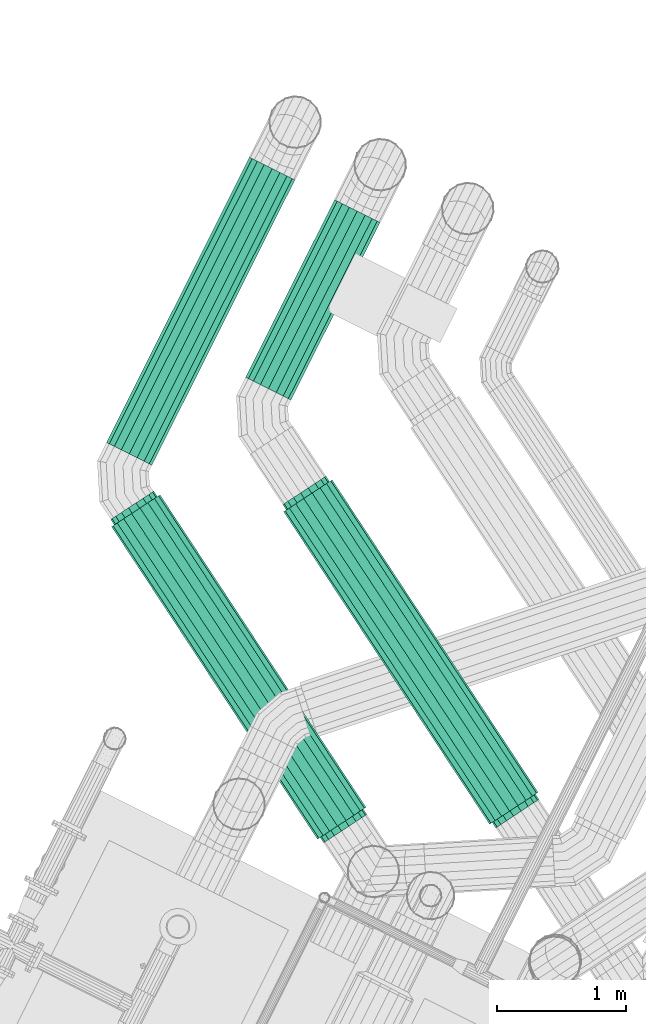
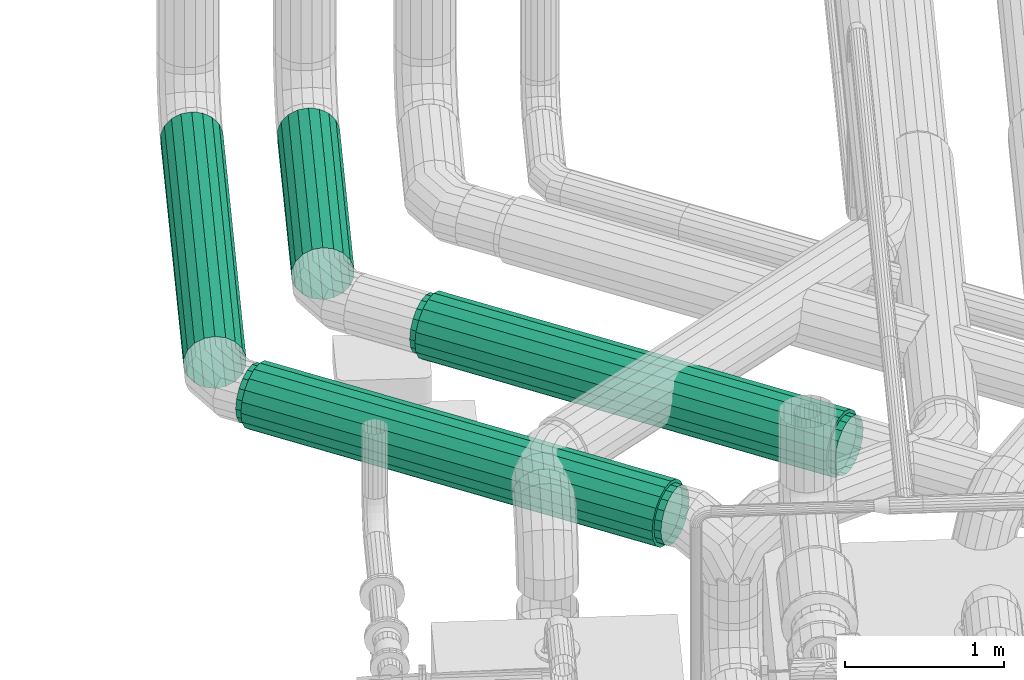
# One storey, part 18 of 206: 2 flow segments, 2 flow treatment devices.
"""IFC2X3 building model written with IfcOpenShell, lengths in metres."""

from ifc_helpers import new_model, si_unit, derived_unit, direction, frame, origin, place, context, subcontext, project, spatial, face_set, surface_model, source, transform, mapped, material, type_object, type_shapes, element, save


model = new_model("IFC2X3")

# Units and contexts
model_context = context("Model", 3, precision=5.2338327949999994e-05, world=origin(), true_north=direction((0.0, 1.0)))
body_context = subcontext(model_context, "Body", "Model", "MODEL_VIEW")
ifc_project = project(units=[si_unit("LENGTHUNIT", "METRE"), si_unit("AREAUNIT", "SQUARE_METRE"), si_unit("VOLUMEUNIT", "CUBIC_METRE"), si_unit("MASSUNIT", "GRAM", prefix="KILO"), si_unit("PLANEANGLEUNIT", "RADIAN"), derived_unit("THERMALTRANSMITTANCEUNIT", [(si_unit("MASSUNIT", "GRAM", prefix="KILO"), 1), (si_unit("THERMODYNAMICTEMPERATUREUNIT", "KELVIN"), -1), (si_unit("TIMEUNIT", "SECOND"), -3)])], contexts=[model_context])

# Site, building, storey
site_placement = place(None, frame((0.0, 0.0, 0.0), z_axis=(0.0, 0.0, 1.0), x_axis=(0.8939966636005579, -0.4480736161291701, 0.0)))
site = spatial("IfcSite", under=ifc_project, at=site_placement, Name="Default", CompositionType="ELEMENT")
building_placement = place(site_placement, origin())
building = spatial("IfcBuilding", under=site, at=building_placement, CompositionType="ELEMENT")
storey_placement = place(building_placement, origin())
storey = spatial("IfcBuildingStorey", under=building, at=storey_placement, Name="Erdgeschoss", CompositionType="ELEMENT", Elevation=0.0)

# Flow treatment device
ifc_material_1 = material(Name="IfcSurfaceStyle #280217")
distribution_element_type_1 = type_object("IfcDistributionElementType", Name="Telefonieschalldämpfer:Telefonieschalldämpfer", material=ifc_material_1)
shared_shape_1 = source(origin(), body_context, "Body", "SurfaceModel", [
    surface_model("IfcFaceBasedSurfaceModel", [(22.159098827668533, 8.455003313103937, 2.2000000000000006), (22.16512956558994, 8.465448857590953, 2.268404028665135), (22.121828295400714, 8.490448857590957, 2.268404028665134), (22.115797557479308, 8.480003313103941, 2.2), (22.18249438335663, 8.495525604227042, 2.328557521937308), (22.139193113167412, 8.520525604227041, 2.328557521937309), (22.20909882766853, 8.541605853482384, 2.3732050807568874), (22.165797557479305, 8.566605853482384, 2.373205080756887), (22.241734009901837, 8.598131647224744, 2.396961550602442), (22.19843273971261, 8.623131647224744, 2.396961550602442), (22.276463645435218, 8.65828514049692, 2.3969615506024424), (22.233162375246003, 8.683285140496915, 2.3969615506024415), (22.309098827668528, 8.714810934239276, 2.3732050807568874), (22.265797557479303, 8.739810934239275, 2.373205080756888), (22.33570327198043, 8.76089118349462, 2.3285575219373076), (22.292402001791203, 8.785891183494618, 2.3285575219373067), (22.35306808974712, 8.790967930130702, 2.2684040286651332), (22.309766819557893, 8.815967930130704, 2.2684040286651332), (22.359098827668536, 8.80141347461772, 2.2000000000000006), (22.31579755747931, 8.826413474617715, 2.200000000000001), (22.35306808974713, 8.790967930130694, 2.1315959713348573), (22.309766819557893, 8.815967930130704, 2.131595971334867), (22.33570327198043, 8.760891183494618, 2.071442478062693), (22.292402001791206, 8.785891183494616, 2.0714424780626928), (22.309098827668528, 8.714810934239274, 2.026794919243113), (22.265797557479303, 8.739810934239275, 2.0267949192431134), (22.27646364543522, 8.658285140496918, 2.003038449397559), (22.233162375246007, 8.683285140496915, 2.003038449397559), (22.241734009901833, 8.598131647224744, 2.0030384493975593), (22.19843273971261, 8.623131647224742, 2.0030384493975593), (22.20909882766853, 8.541605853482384, 2.026794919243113), (22.165797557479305, 8.566605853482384, 2.0267949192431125), (22.18249438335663, 8.495525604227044, 2.071442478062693), (22.139193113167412, 8.520525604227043, 2.071442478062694), (22.16512956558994, 8.465448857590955, 2.1315959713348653), (22.12182829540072, 8.490448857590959, 2.1315959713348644), (22.10329755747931, 8.458352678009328, 2.2000000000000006), (22.110082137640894, 8.470103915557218, 2.276954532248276), (19.598608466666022, 9.920103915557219, 2.276954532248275), (19.591823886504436, 9.90835267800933, 2.2000000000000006), (22.129617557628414, 8.503940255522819, 2.3446272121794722), (19.61814388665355, 9.953940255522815, 2.3446272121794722), (22.159547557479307, 8.555780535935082, 2.3948557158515), (19.648073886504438, 10.005780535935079, 2.3948557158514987), (22.196262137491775, 8.619372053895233, 2.421581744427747), (19.684788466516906, 10.069372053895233, 2.421581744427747), (22.235332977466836, 8.687044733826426, 2.4215817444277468), (19.723859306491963, 10.137044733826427, 2.4215817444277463), (22.272047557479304, 8.75063625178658, 2.3948557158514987), (19.760573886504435, 10.200636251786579, 2.394855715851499), (22.301977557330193, 8.80247653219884, 2.344627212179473), (19.790503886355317, 10.25247653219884, 2.3446272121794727), (22.321512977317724, 8.83631287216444, 2.276954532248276), (19.81003930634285, 10.286312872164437, 2.2769545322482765), (22.328297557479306, 8.848064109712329, 2.2), (19.816823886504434, 10.298064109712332, 2.1999999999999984), (22.32151297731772, 8.836312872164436, 2.1230454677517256), (19.81003930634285, 10.286312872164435, 2.123045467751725), (22.301977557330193, 8.802476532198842, 2.055372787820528), (19.79050388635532, 10.252476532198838, 2.055372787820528), (22.272047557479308, 8.75063625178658, 2.0051442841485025), (19.76057388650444, 10.200636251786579, 2.0051442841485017), (22.235332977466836, 8.687044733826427, 1.9784182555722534), (19.723859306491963, 10.137044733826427, 1.9784182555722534), (22.19626213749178, 8.619372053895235, 1.9784182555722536), (19.68478846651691, 10.069372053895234, 1.9784182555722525), (22.15954755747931, 8.555780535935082, 2.005144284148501), (19.648073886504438, 10.005780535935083, 2.0051442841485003), (22.129617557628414, 8.503940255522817, 2.055372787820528), (19.61814388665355, 9.953940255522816, 2.0553727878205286), (22.110082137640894, 8.47010391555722, 2.123045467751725), (19.598608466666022, 9.920103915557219, 2.123045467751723), (22.215797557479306, 8.65320839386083, 2.2), (19.704323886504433, 10.103208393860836, 2.1999999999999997), (19.604323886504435, 9.930003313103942, 2.2), (19.61035462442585, 9.940448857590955, 2.2684040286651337), (19.567053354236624, 9.965448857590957, 2.2684040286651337), (19.56102261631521, 9.955003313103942, 2.1999999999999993), (19.62771944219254, 9.970525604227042, 2.3285575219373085), (19.584418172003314, 9.99552560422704, 2.328557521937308), (19.654323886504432, 10.016605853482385, 2.3732050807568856), (19.611022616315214, 10.04160585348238, 2.373205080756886), (19.686959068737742, 10.073131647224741, 2.3969615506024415), (19.643657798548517, 10.098131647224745, 2.396961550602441), (19.72168870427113, 10.133285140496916, 2.3969615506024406), (19.678387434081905, 10.158285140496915, 2.396961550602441), (19.754323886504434, 10.189810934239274, 2.373205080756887), (19.711022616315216, 10.214810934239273, 2.3732050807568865), (19.780928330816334, 10.23589118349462, 2.3285575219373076), (19.737627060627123, 10.260891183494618, 2.3285575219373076), (19.798293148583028, 10.265967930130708, 2.2684040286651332), (19.754991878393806, 10.290967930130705, 2.2684040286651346), (19.804323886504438, 10.27641347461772, 2.2), (19.761022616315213, 10.301413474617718, 2.2000000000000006), (19.798293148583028, 10.265967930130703, 2.1315959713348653), (19.754991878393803, 10.2909679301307, 2.131595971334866), (19.780928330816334, 10.235891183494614, 2.0714424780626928), (19.73762706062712, 10.260891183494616, 2.0714424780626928), (19.754323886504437, 10.189810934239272, 2.026794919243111), (19.711022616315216, 10.214810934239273, 2.0267949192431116), (19.721688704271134, 10.133285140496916, 2.0030384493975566), (19.678387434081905, 10.158285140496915, 2.003038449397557), (19.686959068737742, 10.073131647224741, 2.003038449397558), (19.643657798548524, 10.098131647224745, 2.003038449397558), (19.654323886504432, 10.016605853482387, 2.026794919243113), (19.611022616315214, 10.041605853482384, 2.026794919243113), (19.62771944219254, 9.97052560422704, 2.071442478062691), (19.584418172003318, 9.99552560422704, 2.071442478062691), (19.61035462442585, 9.940448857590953, 2.1315959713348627), (19.567053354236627, 9.965448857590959, 2.1315959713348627)], [face_set([[[0, 1, 2, 3]], [[1, 4, 5, 2]], [[4, 6, 7, 5]], [[6, 8, 9, 7]], [[8, 10, 11, 9]], [[10, 12, 13, 11]], [[12, 14, 15, 13]], [[14, 16, 17, 15]], [[16, 18, 19, 17]], [[18, 20, 21, 19]], [[20, 22, 23, 21]], [[22, 24, 25, 23]], [[24, 26, 27, 25]], [[26, 28, 29, 27]], [[28, 30, 31, 29]], [[30, 32, 33, 31]], [[32, 34, 35, 33]], [[34, 0, 3, 35]], [[36, 37, 38, 39]], [[37, 40, 41, 38]], [[40, 42, 43, 41]], [[42, 44, 45, 43]], [[44, 46, 47, 45]], [[46, 48, 49, 47]], [[48, 50, 51, 49]], [[50, 52, 53, 51]], [[52, 54, 55, 53]], [[54, 56, 57, 55]], [[56, 58, 59, 57]], [[58, 60, 61, 59]], [[60, 62, 63, 61]], [[62, 64, 65, 63]], [[64, 66, 67, 65]], [[66, 68, 69, 67]], [[68, 70, 71, 69]], [[70, 36, 39, 71]], [[72, 37, 36]], [[72, 40, 37]], [[72, 42, 40]], [[72, 44, 42]], [[72, 46, 44]], [[72, 48, 46]], [[72, 50, 48]], [[72, 52, 50]], [[72, 54, 52]], [[72, 56, 54]], [[72, 58, 56]], [[72, 60, 58]], [[72, 62, 60]], [[72, 64, 62]], [[72, 66, 64]], [[72, 68, 66]], [[72, 70, 68]], [[72, 36, 70]], [[73, 71, 39]], [[73, 69, 71]], [[73, 67, 69]], [[73, 65, 67]], [[73, 63, 65]], [[73, 61, 63]], [[73, 59, 61]], [[73, 57, 59]], [[73, 55, 57]], [[73, 53, 55]], [[73, 51, 53]], [[73, 49, 51]], [[73, 47, 49]], [[73, 45, 47]], [[73, 43, 45]], [[73, 41, 43]], [[73, 38, 41]], [[73, 39, 38]], [[74, 75, 76, 77]], [[75, 78, 79, 76]], [[78, 80, 81, 79]], [[80, 82, 83, 81]], [[82, 84, 85, 83]], [[84, 86, 87, 85]], [[86, 88, 89, 87]], [[88, 90, 91, 89]], [[90, 92, 93, 91]], [[92, 94, 95, 93]], [[94, 96, 97, 95]], [[96, 98, 99, 97]], [[98, 100, 101, 99]], [[100, 102, 103, 101]], [[102, 104, 105, 103]], [[104, 106, 107, 105]], [[106, 108, 109, 107]], [[108, 74, 77, 109]]])]),
])
type_shapes(distribution_element_type_1, [shared_shape_1])
flow_treatment_device_1_placement = place(storey_placement, origin())
element("IfcFlowTreatmentDevice", 1, at=flow_treatment_device_1_placement, inside=storey, type_object=distribution_element_type_1, material=ifc_material_1, Name="Telefonieschalldämpfer", ObjectType="Telefonieschalldämpfer", context=body_context, shape_type="MappedRepresentation", body=[
    mapped(shared_shape_1, transform((0.0, 0.0, 0.0), scale=1.0)),
])

# Flow segment
ifc_material_2 = material(Name="IfcSurfaceStyle #251447")
distribution_element_type_2 = type_object("IfcDistributionElementType", Name="Wickelfalzrohr 280417:Wickelfalzrohr 280417", material=ifc_material_2)
shared_shape_2 = source(origin(), body_context, "Body", "SurfaceModel", [
    surface_model("IfcFaceBasedSurfaceModel", [(19.461022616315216, 10.474618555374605, 2.0), (19.392618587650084, 10.474618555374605, 2.0120614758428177), (19.392618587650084, 12.947668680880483, 2.012061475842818), (19.46102261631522, 12.947668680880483, 2.0), (19.332465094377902, 10.474618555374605, 2.046791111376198), (19.332465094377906, 12.947668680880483, 2.046791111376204), (19.28781753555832, 10.474618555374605, 2.0999999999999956), (19.28781753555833, 12.947668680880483, 2.1), (19.26406106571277, 10.474618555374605, 2.165270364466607), (19.264061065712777, 12.947668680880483, 2.165270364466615), (19.264061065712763, 10.474618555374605, 2.2347296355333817), (19.264061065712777, 12.947668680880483, 2.2347296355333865), (19.287817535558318, 10.474618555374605, 2.2999999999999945), (19.28781753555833, 12.947668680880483, 2.3000000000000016), (19.332465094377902, 10.474618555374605, 2.3532088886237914), (19.332465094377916, 12.947668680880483, 2.3532088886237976), (19.392618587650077, 10.474618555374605, 2.3879385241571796), (19.39261858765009, 12.947668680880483, 2.387938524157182), (19.46102261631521, 10.474618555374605, 2.400000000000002), (19.46102261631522, 12.947668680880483, 2.4), (19.52942664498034, 10.474618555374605, 2.3879385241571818), (19.529426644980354, 12.947668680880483, 2.3879385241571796), (19.58958013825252, 10.474618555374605, 2.353208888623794), (19.589580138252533, 12.947668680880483, 2.3532088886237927), (19.63422769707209, 10.474618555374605, 2.2999999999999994), (19.63422769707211, 12.947668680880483, 2.2999999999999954), (19.65798416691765, 10.474618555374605, 2.2347296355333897), (19.657984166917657, 12.947668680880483, 2.234729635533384), (19.657984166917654, 10.474618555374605, 2.1652703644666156), (19.657984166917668, 12.947668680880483, 2.1652703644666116), (19.6342276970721, 10.474618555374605, 2.100000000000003), (19.634227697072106, 12.947668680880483, 2.099999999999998), (19.589580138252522, 10.474618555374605, 2.046791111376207), (19.589580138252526, 12.947668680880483, 2.0467911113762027), (19.529426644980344, 10.474618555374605, 2.0120614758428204), (19.529426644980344, 12.947668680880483, 2.0120614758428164)], [face_set([[[0, 1, 2, 3]], [[1, 4, 5, 2]], [[4, 6, 7, 5]], [[6, 8, 9, 7]], [[8, 10, 11, 9]], [[10, 12, 13, 11]], [[12, 14, 15, 13]], [[14, 16, 17, 15]], [[16, 18, 19, 17]], [[18, 20, 21, 19]], [[20, 22, 23, 21]], [[22, 24, 25, 23]], [[24, 26, 27, 25]], [[26, 28, 29, 27]], [[28, 30, 31, 29]], [[30, 32, 33, 31]], [[32, 34, 35, 33]], [[34, 0, 3, 35]]])]),
])
type_shapes(distribution_element_type_2, [shared_shape_2])
flow_segment_1_placement = place(storey_placement, origin())
element("IfcFlowSegment", 2, at=flow_segment_1_placement, inside=storey, type_object=distribution_element_type_2, material=ifc_material_2, Name="Wickelfalzrohr", ObjectType="Wickelfalzrohr", context=body_context, shape_type="MappedRepresentation", body=[
    mapped(shared_shape_2, transform((0.0, 0.0, 0.0), scale=1.0)),
])

# Flow treatment device
distribution_element_type_3 = type_object("IfcDistributionElementType", Name="Telefonieschalldämpfer 280796:Telefonieschalldämpfer 280796", material=ifc_material_1)
shared_shape_3 = source(origin(), body_context, "Body", "SurfaceModel", [
    surface_model("IfcFaceBasedSurfaceModel", [(23.2994767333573, 9.156265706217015, 2.1999999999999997), (23.305507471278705, 9.166711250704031, 2.2684040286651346), (23.26220620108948, 9.191711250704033, 2.2684040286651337), (23.256175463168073, 9.181265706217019, 2.1999999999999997), (23.322872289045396, 9.196787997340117, 2.3285575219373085), (23.279571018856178, 9.221787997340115, 2.328557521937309), (23.349476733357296, 9.242868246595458, 2.373205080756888), (23.30617546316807, 9.26786824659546, 2.373205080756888), (23.382111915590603, 9.299394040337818, 2.3969615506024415), (23.338810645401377, 9.324394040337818, 2.3969615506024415), (23.416841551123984, 9.359547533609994, 2.3969615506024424), (23.37354028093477, 9.384547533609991, 2.3969615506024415), (23.449476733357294, 9.41607332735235, 2.3732050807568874), (23.40617546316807, 9.441073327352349, 2.373205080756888), (23.476081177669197, 9.462153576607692, 2.3285575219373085), (23.432779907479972, 9.48715357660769, 2.328557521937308), (23.493445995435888, 9.492230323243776, 2.2684040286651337), (23.45014472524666, 9.517230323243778, 2.2684040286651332), (23.499476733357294, 9.502675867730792, 2.2), (23.456175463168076, 9.52767586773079, 2.200000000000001), (23.49344599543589, 9.49223032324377, 2.131595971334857), (23.45014472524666, 9.51723032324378, 2.1315959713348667), (23.476081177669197, 9.462153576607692, 2.0714424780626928), (23.432779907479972, 9.48715357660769, 2.0714424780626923), (23.449476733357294, 9.416073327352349, 2.026794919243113), (23.40617546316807, 9.441073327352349, 2.0267949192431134), (23.416841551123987, 9.359547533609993, 2.0030384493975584), (23.373540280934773, 9.38454753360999, 2.0030384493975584), (23.382111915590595, 9.299394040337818, 2.0030384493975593), (23.338810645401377, 9.324394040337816, 2.0030384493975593), (23.349476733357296, 9.242868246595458, 2.026794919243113), (23.30617546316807, 9.26786824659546, 2.026794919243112), (23.322872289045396, 9.196787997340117, 2.0714424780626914), (23.279571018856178, 9.221787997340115, 2.071442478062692), (23.305507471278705, 9.166711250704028, 2.1315959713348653), (23.262206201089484, 9.191711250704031, 2.1315959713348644), (23.24367546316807, 9.159615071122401, 2.2000000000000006), (23.25046004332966, 9.17136630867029, 2.276954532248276), (20.738986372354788, 10.621366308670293, 2.276954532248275), (20.732201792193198, 10.609615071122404, 2.2000000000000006), (23.26999546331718, 9.205202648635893, 2.344627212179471), (20.75852179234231, 10.655202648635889, 2.34462721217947), (23.299925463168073, 9.257042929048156, 2.3948557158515), (20.788451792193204, 10.707042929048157, 2.3948557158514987), (23.336640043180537, 9.320634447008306, 2.421581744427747), (20.825166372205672, 10.770634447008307, 2.421581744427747), (23.3757108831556, 9.3883071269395, 2.421581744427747), (20.86423721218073, 10.838307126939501, 2.4215817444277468), (23.41242546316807, 9.451898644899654, 2.3948557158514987), (20.9009517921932, 10.901898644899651, 2.394855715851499), (23.44235546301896, 9.503738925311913, 2.3446272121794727), (20.930881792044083, 10.953738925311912, 2.344627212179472), (23.461890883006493, 9.53757526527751, 2.2769545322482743), (20.95041721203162, 10.98757526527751, 2.2769545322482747), (23.468675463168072, 9.549326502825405, 2.2), (20.9572017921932, 10.999326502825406, 2.1999999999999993), (23.46189088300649, 9.537575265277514, 2.1230454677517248), (20.95041721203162, 10.987575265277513, 2.1230454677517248), (23.44235546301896, 9.503738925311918, 2.0553727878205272), (20.930881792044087, 10.953738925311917, 2.055372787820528), (23.412425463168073, 9.451898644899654, 2.0051442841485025), (20.900951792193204, 10.90189864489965, 2.0051442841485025), (23.3757108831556, 9.388307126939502, 1.9784182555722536), (20.86423721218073, 10.838307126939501, 1.9784182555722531), (23.336640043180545, 9.320634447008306, 1.9784182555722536), (20.825166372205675, 10.770634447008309, 1.9784182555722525), (23.299925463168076, 9.257042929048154, 2.005144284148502), (20.788451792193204, 10.707042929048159, 2.005144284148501), (23.26999546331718, 9.205202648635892, 2.0553727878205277), (20.75852179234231, 10.655202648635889, 2.055372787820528), (23.25046004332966, 9.171366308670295, 2.123045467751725), (20.738986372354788, 10.621366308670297, 2.1230454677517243), (23.35617546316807, 9.354470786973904, 2.2), (20.8447017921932, 10.804470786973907, 2.1999999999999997), (20.744701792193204, 10.631265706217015, 2.1999999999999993), (20.750732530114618, 10.641711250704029, 2.268404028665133), (20.70743125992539, 10.666711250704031, 2.2684040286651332), (20.701400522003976, 10.656265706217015, 2.1999999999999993), (20.768097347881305, 10.671787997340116, 2.3285575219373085), (20.72479607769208, 10.696787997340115, 2.328557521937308), (20.794701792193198, 10.71786824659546, 2.3732050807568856), (20.75140052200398, 10.742868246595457, 2.373205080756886), (20.827336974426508, 10.774394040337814, 2.396961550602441), (20.784035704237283, 10.79939404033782, 2.3969615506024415), (20.862066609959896, 10.834547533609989, 2.3969615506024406), (20.81876533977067, 10.85954753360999, 2.396961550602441), (20.894701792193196, 10.891073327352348, 2.3732050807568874), (20.85140052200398, 10.916073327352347, 2.3732050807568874), (20.9213062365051, 10.937153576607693, 2.3285575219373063), (20.87800496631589, 10.962153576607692, 2.3285575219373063), (20.93867105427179, 10.96723032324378, 2.2684040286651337), (20.895369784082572, 10.99223032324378, 2.2684040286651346), (20.944701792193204, 10.977675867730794, 2.1999999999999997), (20.901400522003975, 11.00267586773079, 2.1999999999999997), (20.93867105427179, 10.967230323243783, 2.1315959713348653), (20.895369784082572, 10.99223032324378, 2.131595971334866), (20.921306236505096, 10.937153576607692, 2.0714424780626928), (20.878004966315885, 10.962153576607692, 2.0714424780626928), (20.894701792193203, 10.891073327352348, 2.0267949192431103), (20.85140052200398, 10.916073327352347, 2.0267949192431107), (20.8620666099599, 10.834547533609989, 2.003038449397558), (20.818765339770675, 10.85954753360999, 2.003038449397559), (20.827336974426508, 10.774394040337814, 2.003038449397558), (20.78403570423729, 10.79939404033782, 2.003038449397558), (20.794701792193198, 10.71786824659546, 2.026794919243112), (20.75140052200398, 10.742868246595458, 2.0267949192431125), (20.768097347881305, 10.671787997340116, 2.071442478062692), (20.724796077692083, 10.696787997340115, 2.071442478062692), (20.750732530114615, 10.641711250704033, 2.1315959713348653), (20.707431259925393, 10.666711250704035, 2.1315959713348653)], [face_set([[[0, 1, 2, 3]], [[1, 4, 5, 2]], [[4, 6, 7, 5]], [[6, 8, 9, 7]], [[8, 10, 11, 9]], [[10, 12, 13, 11]], [[12, 14, 15, 13]], [[14, 16, 17, 15]], [[16, 18, 19, 17]], [[18, 20, 21, 19]], [[20, 22, 23, 21]], [[22, 24, 25, 23]], [[24, 26, 27, 25]], [[26, 28, 29, 27]], [[28, 30, 31, 29]], [[30, 32, 33, 31]], [[32, 34, 35, 33]], [[34, 0, 3, 35]], [[36, 37, 38, 39]], [[37, 40, 41, 38]], [[40, 42, 43, 41]], [[42, 44, 45, 43]], [[44, 46, 47, 45]], [[46, 48, 49, 47]], [[48, 50, 51, 49]], [[50, 52, 53, 51]], [[52, 54, 55, 53]], [[54, 56, 57, 55]], [[56, 58, 59, 57]], [[58, 60, 61, 59]], [[60, 62, 63, 61]], [[62, 64, 65, 63]], [[64, 66, 67, 65]], [[66, 68, 69, 67]], [[68, 70, 71, 69]], [[70, 36, 39, 71]], [[72, 37, 36]], [[72, 40, 37]], [[72, 42, 40]], [[72, 44, 42]], [[72, 46, 44]], [[72, 48, 46]], [[72, 50, 48]], [[72, 52, 50]], [[72, 54, 52]], [[72, 56, 54]], [[72, 58, 56]], [[72, 60, 58]], [[72, 62, 60]], [[72, 64, 62]], [[72, 66, 64]], [[72, 68, 66]], [[72, 70, 68]], [[72, 36, 70]], [[73, 71, 39]], [[73, 69, 71]], [[73, 67, 69]], [[73, 65, 67]], [[73, 63, 65]], [[73, 61, 63]], [[73, 59, 61]], [[73, 57, 59]], [[73, 55, 57]], [[73, 53, 55]], [[73, 51, 53]], [[73, 49, 51]], [[73, 47, 49]], [[73, 45, 47]], [[73, 43, 45]], [[73, 41, 43]], [[73, 38, 41]], [[73, 39, 38]], [[74, 75, 76, 77]], [[75, 78, 79, 76]], [[78, 80, 81, 79]], [[80, 82, 83, 81]], [[82, 84, 85, 83]], [[84, 86, 87, 85]], [[86, 88, 89, 87]], [[88, 90, 91, 89]], [[90, 92, 93, 91]], [[92, 94, 95, 93]], [[94, 96, 97, 95]], [[96, 98, 99, 97]], [[98, 100, 101, 99]], [[100, 102, 103, 101]], [[102, 104, 105, 103]], [[104, 106, 107, 105]], [[106, 108, 109, 107]], [[108, 74, 77, 109]]])]),
])
type_shapes(distribution_element_type_3, [shared_shape_3])
flow_treatment_device_2_placement = place(storey_placement, origin())
element("IfcFlowTreatmentDevice", 3, at=flow_treatment_device_2_placement, inside=storey, type_object=distribution_element_type_3, material=ifc_material_1, Name="Telefonieschalldämpfer", ObjectType="Telefonieschalldämpfer", context=body_context, shape_type="MappedRepresentation", body=[
    mapped(shared_shape_3, transform((0.0, 0.0, 0.0), scale=1.0)),
])

# Flow segment
distribution_element_type_4 = type_object("IfcDistributionElementType", Name="Wickelfalzrohr 281175:Wickelfalzrohr 281175", material=ifc_material_2)
shared_shape_4 = source(origin(), body_context, "Body", "SurfaceModel", [
    surface_model("IfcFaceBasedSurfaceModel", [(20.19823419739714, 11.408649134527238, 2.0), (20.12983016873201, 11.408649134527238, 2.012061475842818), (20.12983016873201, 12.947668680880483, 2.0120614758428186), (20.198234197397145, 12.947668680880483, 2.0), (20.06967667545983, 11.408649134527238, 2.0467911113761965), (20.06967667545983, 12.947668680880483, 2.046791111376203), (20.025029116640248, 11.408649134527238, 2.0999999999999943), (20.025029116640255, 12.947668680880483, 2.099999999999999), (20.001272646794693, 11.408649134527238, 2.165270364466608), (20.001272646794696, 12.947668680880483, 2.165270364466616), (20.001272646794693, 11.408649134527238, 2.2347296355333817), (20.001272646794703, 12.947668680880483, 2.234729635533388), (20.025029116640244, 11.408649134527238, 2.2999999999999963), (20.025029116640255, 12.947668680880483, 2.3000000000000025), (20.06967667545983, 11.408649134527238, 2.35320888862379), (20.06967667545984, 12.947668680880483, 2.3532088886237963), (20.129830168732, 11.408649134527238, 2.3879385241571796), (20.129830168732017, 12.947668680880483, 2.387938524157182), (20.19823419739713, 11.408649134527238, 2.4000000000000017), (20.198234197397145, 12.947668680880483, 2.3999999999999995), (20.266638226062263, 11.408649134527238, 2.3879385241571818), (20.26663822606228, 12.947668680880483, 2.3879385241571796), (20.32679171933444, 11.408649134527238, 2.353208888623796), (20.326791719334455, 12.947668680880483, 2.3532088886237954), (20.37143927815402, 11.408649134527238, 2.3000000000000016), (20.37143927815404, 12.947668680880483, 2.299999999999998), (20.395195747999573, 11.408649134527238, 2.2347296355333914), (20.395195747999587, 12.947668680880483, 2.234729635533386), (20.39519574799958, 11.408649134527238, 2.1652703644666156), (20.39519574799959, 12.947668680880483, 2.1652703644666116), (20.371439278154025, 11.408649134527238, 2.100000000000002), (20.371439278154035, 12.947668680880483, 2.099999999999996), (20.326791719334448, 11.408649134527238, 2.046791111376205), (20.326791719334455, 12.947668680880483, 2.0467911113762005), (20.266638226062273, 11.408649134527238, 2.0120614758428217), (20.266638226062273, 12.947668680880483, 2.0120614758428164)], [face_set([[[0, 1, 2, 3]], [[1, 4, 5, 2]], [[4, 6, 7, 5]], [[6, 8, 9, 7]], [[8, 10, 11, 9]], [[10, 12, 13, 11]], [[12, 14, 15, 13]], [[14, 16, 17, 15]], [[16, 18, 19, 17]], [[18, 20, 21, 19]], [[20, 22, 23, 21]], [[22, 24, 25, 23]], [[24, 26, 27, 25]], [[26, 28, 29, 27]], [[28, 30, 31, 29]], [[30, 32, 33, 31]], [[32, 34, 35, 33]], [[34, 0, 3, 35]]])]),
])
type_shapes(distribution_element_type_4, [shared_shape_4])
flow_segment_2_placement = place(storey_placement, origin())
element("IfcFlowSegment", 4, at=flow_segment_2_placement, inside=storey, type_object=distribution_element_type_4, material=ifc_material_2, Name="Wickelfalzrohr", ObjectType="Wickelfalzrohr", context=body_context, shape_type="MappedRepresentation", body=[
    mapped(shared_shape_4, transform((0.0, 0.0, 0.0), scale=1.0)),
])

save(model, "model.ifc")
